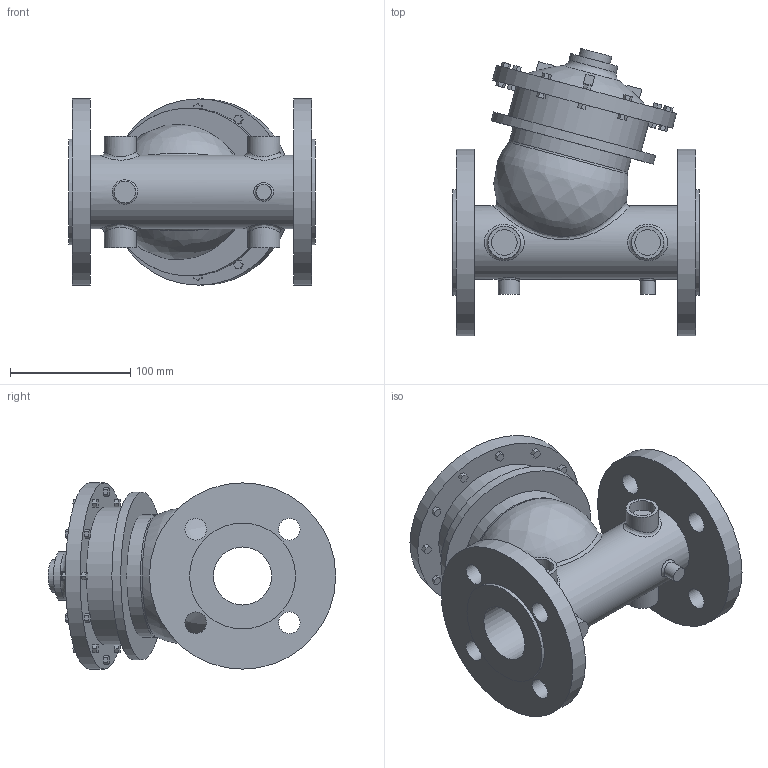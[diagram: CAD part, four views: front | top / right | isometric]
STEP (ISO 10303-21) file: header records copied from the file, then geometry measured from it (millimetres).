
FILE_DESCRIPTION(/* description */ ('VIC FP VALVE PRESSURE RELIEF SERIES 867-7UF (PN16)','CAx-IF Rec.Pracs.---Representation and Presentation of Product Manufacturing Information (PMI)---4.0---2014-10-13'),/* implementation_level */ '2;1');
FILE_NAME(/* name */ 'C:\Series 867-7UF\Series 867-7UF final\pn16\step\Victaulic_FP-Bermad_Valve Pressure Relief_Series 867-7UF (PN16)\Victaulic_FP-Bermad_Valve Pressure Relief_Series 867-7UF (PN16)_1.5 (40).stp',/* time_stamp */ '2021-09-02T19:16:43+06:00',/* author */ ('kkamble'),/* organization */ ('Victaulic'),/* preprocessor_version */ 'ST-DEVELOPER v17.2',/* originating_system */ 'Autodesk Inventor 2019',/* authorisation */ '');
FILE_SCHEMA (('AP242_MANAGED_MODEL_BASED_3D_ENGINEERING_MIM_LF { 1 0 10303 442 1 1 4 }'));
Length unit declared in the file: inch
Products named in the file (1): 867-7UF-01.5
Bounding box: 204.98 x 239.02 x 154.94 mm (x, y, z)
Volume: 1988784.6 mm3; surface area: 238681.2 mm2
Topology: 1 solids, 1 shells, 251 faces, 637 edges, 433 vertices
Faces by surface type: plane 210, cylinder 30, bspline 9, torus 2
Full cylindrical faces by diameter (mm): 12.7 x1, 17.78 x1, 18 x8, 21.336 x4, 26.67 x1, 26.873 x4, 40.64 x1, 48.26 x1, 60.96 x1, 88 x2, 101.6 x1, 114.3 x1, 139.7 x1, 154.94 x3
Entity records: 9067 total; most frequent: CARTESIAN_POINT 2534, ORIENTED_EDGE 1286, DIRECTION 1204, EDGE_CURVE 643, LINE 502, VECTOR 502, VERTEX_POINT 439, AXIS2_PLACEMENT_3D 351
